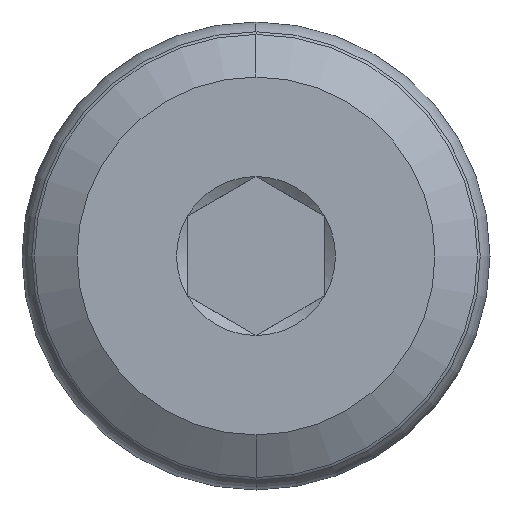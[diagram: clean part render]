
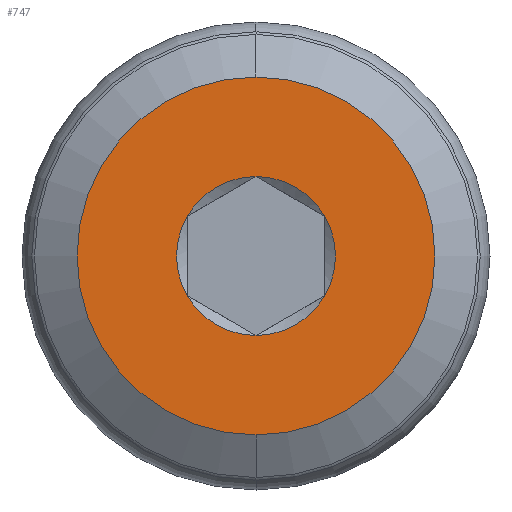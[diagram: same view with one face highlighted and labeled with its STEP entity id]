
A CAD part, left-side view. The second image highlights one B-rep face of the part: STEP entity #747.
In plain terms, the highlighted planar face has unit normal (-1, 0, 0).
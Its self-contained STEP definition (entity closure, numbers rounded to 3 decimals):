
#5 = FACE_BOUND ( 'NONE', #430, .T. ) ;
#13 = CIRCLE ( 'NONE', #567, 1.443 ) ;
#14 = DIRECTION ( 'NONE',  ( 0., 0., 1. ) ) ;
#21 = EDGE_CURVE ( 'NONE', #626, #574, #651, .T. ) ;
#32 = EDGE_CURVE ( 'NONE', #574, #759, #687, .T. ) ;
#33 = EDGE_LOOP ( 'NONE', ( #197, #467 ) ) ;
#46 = ORIENTED_EDGE ( 'NONE', *, *, #534, .T. ) ;
#50 = ORIENTED_EDGE ( 'NONE', *, *, #471, .T. ) ;
#65 = DIRECTION ( 'NONE',  ( 1., 0., 0. ) ) ;
#77 = DIRECTION ( 'NONE',  ( 0., 0., -1. ) ) ;
#82 = CARTESIAN_POINT ( 'NONE',  ( 0., -1.25, -0.722 ) ) ;
#83 = VERTEX_POINT ( 'NONE', #339 ) ;
#86 = CARTESIAN_POINT ( 'NONE',  ( 0., 0., 0. ) ) ;
#91 = ORIENTED_EDGE ( 'NONE', *, *, #32, .T. ) ;
#120 = CIRCLE ( 'NONE', #577, 1.443 ) ;
#134 = CARTESIAN_POINT ( 'NONE',  ( 0., 1.25, 0.722 ) ) ;
#147 = CARTESIAN_POINT ( 'NONE',  ( 0., 0., 0. ) ) ;
#183 = AXIS2_PLACEMENT_3D ( 'NONE', #147, #523, #516 ) ;
#193 = CARTESIAN_POINT ( 'NONE',  ( 0., 3.25, 0. ) ) ;
#197 = ORIENTED_EDGE ( 'NONE', *, *, #495, .F. ) ;
#205 = DIRECTION ( 'NONE',  ( 1., 0., 0. ) ) ;
#209 = AXIS2_PLACEMENT_3D ( 'NONE', #193, #253, #14 ) ;
#220 = DIRECTION ( 'NONE',  ( 1., 0., 0. ) ) ;
#222 = CARTESIAN_POINT ( 'NONE',  ( 0., 0., 0. ) ) ;
#239 = ORIENTED_EDGE ( 'NONE', *, *, #251, .T. ) ;
#247 = CIRCLE ( 'NONE', #689, 1.443 ) ;
#248 = CIRCLE ( 'NONE', #630, 3.25 ) ;
#249 = VERTEX_POINT ( 'NONE', #301 ) ;
#251 = EDGE_CURVE ( 'NONE', #83, #275, #666, .T. ) ;
#253 = DIRECTION ( 'NONE',  ( -1., 0., 0. ) ) ;
#262 = CARTESIAN_POINT ( 'NONE',  ( 0., 0., 1.443 ) ) ;
#269 = AXIS2_PLACEMENT_3D ( 'NONE', #483, #416, #428 ) ;
#275 = VERTEX_POINT ( 'NONE', #82 ) ;
#276 = DIRECTION ( 'NONE',  ( 0., 0., -1. ) ) ;
#301 = CARTESIAN_POINT ( 'NONE',  ( 0., 0., -3.25 ) ) ;
#305 = VERTEX_POINT ( 'NONE', #262 ) ;
#313 = FACE_OUTER_BOUND ( 'NONE', #33, .T. ) ;
#315 = VERTEX_POINT ( 'NONE', #729 ) ;
#324 = EDGE_CURVE ( 'NONE', #315, #249, #727, .T. ) ;
#339 = CARTESIAN_POINT ( 'NONE',  ( 0., -1.25, 0.722 ) ) ;
#409 = CARTESIAN_POINT ( 'NONE',  ( 0., 0., 0. ) ) ;
#416 = DIRECTION ( 'NONE',  ( 1., 0., 0. ) ) ;
#428 = DIRECTION ( 'NONE',  ( 0., 0., -1. ) ) ;
#430 = EDGE_LOOP ( 'NONE', ( #50, #46, #239, #739, #794, #91 ) ) ;
#450 = DIRECTION ( 'NONE',  ( 1., 0., 0. ) ) ;
#462 = EDGE_CURVE ( 'NONE', #275, #626, #120, .T. ) ;
#465 = CARTESIAN_POINT ( 'NONE',  ( 0., 0., -1.443 ) ) ;
#467 = ORIENTED_EDGE ( 'NONE', *, *, #324, .F. ) ;
#471 = EDGE_CURVE ( 'NONE', #759, #305, #13, .T. ) ;
#483 = CARTESIAN_POINT ( 'NONE',  ( 0., 0., 0. ) ) ;
#495 = EDGE_CURVE ( 'NONE', #249, #315, #248, .T. ) ;
#516 = DIRECTION ( 'NONE',  ( 0., 0., -1. ) ) ;
#519 = DIRECTION ( 'NONE',  ( 0., 0., -1. ) ) ;
#523 = DIRECTION ( 'NONE',  ( 1., 0., 0. ) ) ;
#534 = EDGE_CURVE ( 'NONE', #305, #83, #247, .T. ) ;
#565 = PLANE ( 'NONE',  #209 ) ;
#567 = AXIS2_PLACEMENT_3D ( 'NONE', #698, #205, #519 ) ;
#570 = DIRECTION ( 'NONE',  ( 0., 0., -1. ) ) ;
#573 = DIRECTION ( 'NONE',  ( 1., 0., 0. ) ) ;
#574 = VERTEX_POINT ( 'NONE', #724 ) ;
#577 = AXIS2_PLACEMENT_3D ( 'NONE', #583, #220, #648 ) ;
#579 = DIRECTION ( 'NONE',  ( 1., 0., 0. ) ) ;
#583 = CARTESIAN_POINT ( 'NONE',  ( 0., 0., 0. ) ) ;
#623 = CARTESIAN_POINT ( 'NONE',  ( 0., 0., 0. ) ) ;
#626 = VERTEX_POINT ( 'NONE', #465 ) ;
#630 = AXIS2_PLACEMENT_3D ( 'NONE', #409, #579, #276 ) ;
#634 = DIRECTION ( 'NONE',  ( 0., 0., -1. ) ) ;
#640 = AXIS2_PLACEMENT_3D ( 'NONE', #86, #450, #634 ) ;
#648 = DIRECTION ( 'NONE',  ( 0., 0., -1. ) ) ;
#651 = CIRCLE ( 'NONE', #640, 1.443 ) ;
#653 = AXIS2_PLACEMENT_3D ( 'NONE', #623, #65, #77 ) ;
#666 = CIRCLE ( 'NONE', #269, 1.443 ) ;
#687 = CIRCLE ( 'NONE', #183, 1.443 ) ;
#689 = AXIS2_PLACEMENT_3D ( 'NONE', #222, #573, #570 ) ;
#698 = CARTESIAN_POINT ( 'NONE',  ( 0., 0., 0. ) ) ;
#724 = CARTESIAN_POINT ( 'NONE',  ( 0., 1.25, -0.722 ) ) ;
#727 = CIRCLE ( 'NONE', #653, 3.25 ) ;
#729 = CARTESIAN_POINT ( 'NONE',  ( 0., 0., 3.25 ) ) ;
#739 = ORIENTED_EDGE ( 'NONE', *, *, #462, .T. ) ;
#747 = ADVANCED_FACE ( 'NONE', ( #5, #313 ), #565, .T. ) ;
#759 = VERTEX_POINT ( 'NONE', #134 ) ;
#794 = ORIENTED_EDGE ( 'NONE', *, *, #21, .T. ) ;
